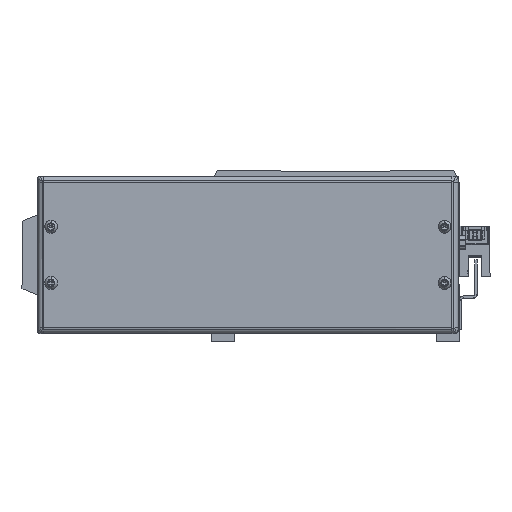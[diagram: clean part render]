
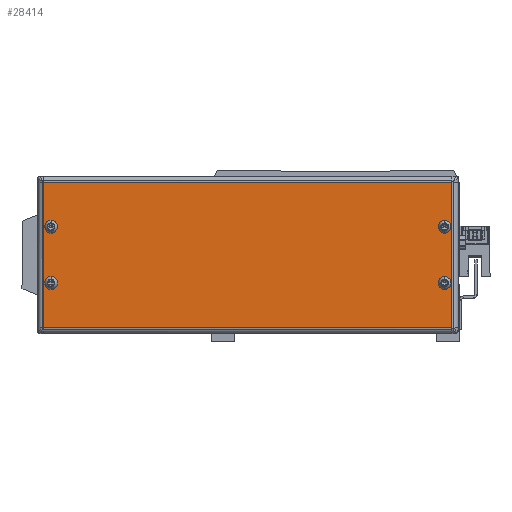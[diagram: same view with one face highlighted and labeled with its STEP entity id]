
A CAD part, front view. The second image highlights one B-rep face of the part: STEP entity #28414.
In plain terms, the highlighted planar face has unit normal (0, -1, 0) as drawn and (0, 0, 1) by its records, which use the part's own axes.
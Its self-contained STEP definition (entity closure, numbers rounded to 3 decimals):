
#56 = DIRECTION ( 'NONE',  ( 0., 1., 0. ) ) ;
#1061 = ORIENTED_EDGE ( 'NONE', *, *, #12988, .F. ) ;
#1088 = CIRCLE ( 'NONE', #5221, 1.75 ) ;
#1379 = VERTEX_POINT ( 'NONE', #22763 ) ;
#1479 = AXIS2_PLACEMENT_3D ( 'NONE', #27842, #14718, #28130 ) ;
#2229 = AXIS2_PLACEMENT_3D ( 'NONE', #19238, #36987, #16352 ) ;
#2782 = EDGE_CURVE ( 'NONE', #23468, #32469, #33395, .T. ) ;
#2797 = AXIS2_PLACEMENT_3D ( 'NONE', #14640, #7928, #7649 ) ;
#2970 = EDGE_CURVE ( 'NONE', #24356, #31405, #13434, .T. ) ;
#3446 = ORIENTED_EDGE ( 'NONE', *, *, #34926, .F. ) ;
#3648 = VERTEX_POINT ( 'NONE', #26190 ) ;
#4056 = AXIS2_PLACEMENT_3D ( 'NONE', #27658, #24209, #27371 ) ;
#4459 = EDGE_CURVE ( 'NONE', #3648, #40099, #32836, .T. ) ;
#4569 = CIRCLE ( 'NONE', #4056, 1.75 ) ;
#5221 = AXIS2_PLACEMENT_3D ( 'NONE', #24293, #7357, #38456 ) ;
#5806 = LINE ( 'NONE', #11499, #39121 ) ;
#6026 = ORIENTED_EDGE ( 'NONE', *, *, #7157, .F. ) ;
#6376 = EDGE_CURVE ( 'NONE', #1379, #25941, #23824, .T. ) ;
#6598 = CARTESIAN_POINT ( 'NONE',  ( 159.25, -167.567, 987.683 ) ) ;
#7157 = EDGE_CURVE ( 'NONE', #40236, #35614, #27538, .T. ) ;
#7297 = CARTESIAN_POINT ( 'NONE',  ( 161., -142.567, 987.683 ) ) ;
#7357 = DIRECTION ( 'NONE',  ( 0., 0., 1. ) ) ;
#7592 = ORIENTED_EDGE ( 'NONE', *, *, #6376, .T. ) ;
#7649 = DIRECTION ( 'NONE',  ( 1., 0., 0. ) ) ;
#7921 = ORIENTED_EDGE ( 'NONE', *, *, #4459, .F. ) ;
#7928 = DIRECTION ( 'NONE',  ( 0., 0., 1. ) ) ;
#9250 = DIRECTION ( 'NONE',  ( 1., 0., 0. ) ) ;
#10047 = CARTESIAN_POINT ( 'NONE',  ( 161., -167.567, 987.683 ) ) ;
#10386 = ORIENTED_EDGE ( 'NONE', *, *, #2782, .F. ) ;
#10798 = CARTESIAN_POINT ( 'NONE',  ( 157.5, -142.567, 987.683 ) ) ;
#11499 = CARTESIAN_POINT ( 'NONE',  ( 337.543, -122.803, 987.683 ) ) ;
#11684 = FACE_OUTER_BOUND ( 'NONE', #25406, .T. ) ;
#11942 = ORIENTED_EDGE ( 'NONE', *, *, #26751, .T. ) ;
#12988 = EDGE_CURVE ( 'NONE', #40099, #3648, #32067, .T. ) ;
#13247 = EDGE_LOOP ( 'NONE', ( #3446, #14935 ) ) ;
#13433 = DIRECTION ( 'NONE',  ( 0., 0., 1. ) ) ;
#13434 = LINE ( 'NONE', #21048, #23695 ) ;
#13543 = CARTESIAN_POINT ( 'NONE',  ( 336., -167.567, 987.683 ) ) ;
#13575 = DIRECTION ( 'NONE',  ( 0., 0., 1. ) ) ;
#13721 = CARTESIAN_POINT ( 'NONE',  ( 334.25, -142.567, 987.683 ) ) ;
#14203 = DIRECTION ( 'NONE',  ( -1., 0., 0. ) ) ;
#14640 = CARTESIAN_POINT ( 'NONE',  ( 159.25, -167.567, 987.683 ) ) ;
#14718 = DIRECTION ( 'NONE',  ( 0., 0., 1. ) ) ;
#14894 = CARTESIAN_POINT ( 'NONE',  ( 337.514, -187.33, 987.683 ) ) ;
#14935 = ORIENTED_EDGE ( 'NONE', *, *, #16410, .F. ) ;
#16352 = DIRECTION ( 'NONE',  ( 1., 0., 0. ) ) ;
#16410 = EDGE_CURVE ( 'NONE', #37629, #20113, #41748, .T. ) ;
#17250 = EDGE_CURVE ( 'NONE', #35614, #40236, #37830, .T. ) ;
#17528 = CARTESIAN_POINT ( 'NONE',  ( 159.25, -142.567, 987.683 ) ) ;
#17662 = DIRECTION ( 'NONE',  ( 1., 0., 0. ) ) ;
#18329 = ORIENTED_EDGE ( 'NONE', *, *, #39447, .T. ) ;
#18737 = AXIS2_PLACEMENT_3D ( 'NONE', #43077, #25324, #32650 ) ;
#18785 = CARTESIAN_POINT ( 'NONE',  ( 332.5, -142.567, 987.683 ) ) ;
#19238 = CARTESIAN_POINT ( 'NONE',  ( 334.25, -167.567, 987.683 ) ) ;
#19474 = EDGE_CURVE ( 'NONE', #32469, #23468, #4569, .T. ) ;
#20113 = VERTEX_POINT ( 'NONE', #31272 ) ;
#20271 = AXIS2_PLACEMENT_3D ( 'NONE', #17528, #38186, #24166 ) ;
#21048 = CARTESIAN_POINT ( 'NONE',  ( 337.514, -187.359, 987.683 ) ) ;
#21884 = EDGE_LOOP ( 'NONE', ( #35770, #6026 ) ) ;
#22246 = CARTESIAN_POINT ( 'NONE',  ( 155.987, -122.774, 987.683 ) ) ;
#22763 = CARTESIAN_POINT ( 'NONE',  ( 155.987, -122.803, 987.683 ) ) ;
#23468 = VERTEX_POINT ( 'NONE', #13543 ) ;
#23695 = VECTOR ( 'NONE', #56, 1000. ) ;
#23824 = LINE ( 'NONE', #22246, #25973 ) ;
#23913 = ORIENTED_EDGE ( 'NONE', *, *, #19474, .F. ) ;
#24166 = DIRECTION ( 'NONE',  ( 1., 0., 0. ) ) ;
#24209 = DIRECTION ( 'NONE',  ( 0., 0., 1. ) ) ;
#24241 = LINE ( 'NONE', #26621, #25333 ) ;
#24293 = CARTESIAN_POINT ( 'NONE',  ( 334.25, -142.567, 987.683 ) ) ;
#24356 = VERTEX_POINT ( 'NONE', #14894 ) ;
#25324 = DIRECTION ( 'NONE',  ( 0., 0., 1. ) ) ;
#25333 = VECTOR ( 'NONE', #9250, 1000. ) ;
#25406 = EDGE_LOOP ( 'NONE', ( #18329, #44295, #11942, #7592 ) ) ;
#25941 = VERTEX_POINT ( 'NONE', #30930 ) ;
#25973 = VECTOR ( 'NONE', #43016, 1000. ) ;
#26190 = CARTESIAN_POINT ( 'NONE',  ( 157.5, -167.567, 987.683 ) ) ;
#26621 = CARTESIAN_POINT ( 'NONE',  ( 155.957, -187.33, 987.683 ) ) ;
#26751 = EDGE_CURVE ( 'NONE', #31405, #1379, #5806, .T. ) ;
#27265 = CARTESIAN_POINT ( 'NONE',  ( 337.514, -122.803, 987.683 ) ) ;
#27294 = DIRECTION ( 'NONE',  ( 1., 0., 0. ) ) ;
#27371 = DIRECTION ( 'NONE',  ( 1., 0., 0. ) ) ;
#27380 = FACE_BOUND ( 'NONE', #21884, .T. ) ;
#27538 = CIRCLE ( 'NONE', #18737, 1.75 ) ;
#27658 = CARTESIAN_POINT ( 'NONE',  ( 334.25, -167.567, 987.683 ) ) ;
#27842 = CARTESIAN_POINT ( 'NONE',  ( 181.9, -156.027, 987.683 ) ) ;
#28130 = DIRECTION ( 'NONE',  ( 1., 0., 0. ) ) ;
#28414 = ADVANCED_FACE ( 'NONE', ( #27380, #33812, #33296, #31634, #11684 ), #33998, .T. ) ;
#29383 = CARTESIAN_POINT ( 'NONE',  ( 332.5, -167.567, 987.683 ) ) ;
#29840 = EDGE_LOOP ( 'NONE', ( #10386, #23913 ) ) ;
#29856 = EDGE_LOOP ( 'NONE', ( #1061, #7921 ) ) ;
#30930 = CARTESIAN_POINT ( 'NONE',  ( 155.987, -187.33, 987.683 ) ) ;
#31272 = CARTESIAN_POINT ( 'NONE',  ( 336., -142.567, 987.683 ) ) ;
#31405 = VERTEX_POINT ( 'NONE', #27265 ) ;
#31634 = FACE_BOUND ( 'NONE', #13247, .T. ) ;
#32067 = CIRCLE ( 'NONE', #2797, 1.75 ) ;
#32469 = VERTEX_POINT ( 'NONE', #29383 ) ;
#32650 = DIRECTION ( 'NONE',  ( 1., 0., 0. ) ) ;
#32836 = CIRCLE ( 'NONE', #34486, 1.75 ) ;
#33296 = FACE_BOUND ( 'NONE', #29840, .T. ) ;
#33395 = CIRCLE ( 'NONE', #2229, 1.75 ) ;
#33812 = FACE_BOUND ( 'NONE', #29856, .T. ) ;
#33998 = PLANE ( 'NONE',  #1479 ) ;
#34486 = AXIS2_PLACEMENT_3D ( 'NONE', #6598, #13433, #27294 ) ;
#34609 = AXIS2_PLACEMENT_3D ( 'NONE', #13721, #13575, #17662 ) ;
#34926 = EDGE_CURVE ( 'NONE', #20113, #37629, #1088, .T. ) ;
#35614 = VERTEX_POINT ( 'NONE', #7297 ) ;
#35770 = ORIENTED_EDGE ( 'NONE', *, *, #17250, .F. ) ;
#36987 = DIRECTION ( 'NONE',  ( 0., 0., 1. ) ) ;
#37629 = VERTEX_POINT ( 'NONE', #18785 ) ;
#37830 = CIRCLE ( 'NONE', #20271, 1.75 ) ;
#38186 = DIRECTION ( 'NONE',  ( 0., 0., 1. ) ) ;
#38456 = DIRECTION ( 'NONE',  ( 1., 0., 0. ) ) ;
#39121 = VECTOR ( 'NONE', #14203, 1000. ) ;
#39447 = EDGE_CURVE ( 'NONE', #25941, #24356, #24241, .T. ) ;
#40099 = VERTEX_POINT ( 'NONE', #10047 ) ;
#40236 = VERTEX_POINT ( 'NONE', #10798 ) ;
#41748 = CIRCLE ( 'NONE', #34609, 1.75 ) ;
#43016 = DIRECTION ( 'NONE',  ( 0., -1., 0. ) ) ;
#43077 = CARTESIAN_POINT ( 'NONE',  ( 159.25, -142.567, 987.683 ) ) ;
#44295 = ORIENTED_EDGE ( 'NONE', *, *, #2970, .T. ) ;
